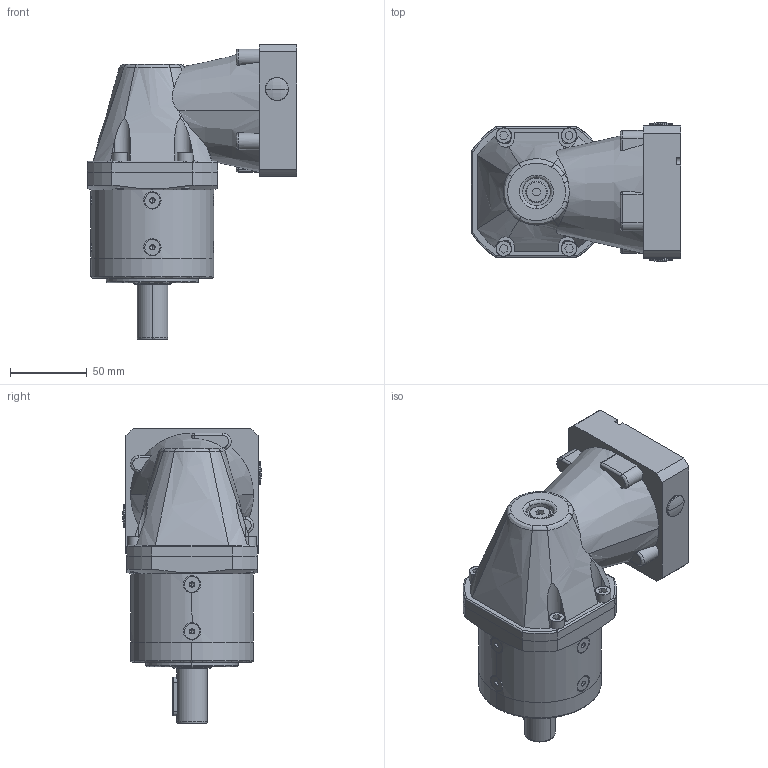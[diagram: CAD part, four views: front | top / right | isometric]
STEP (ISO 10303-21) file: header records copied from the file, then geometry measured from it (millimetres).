
FILE_DESCRIPTION (( 'STEP AP214' ), '1' );
FILE_NAME ('GSLR-080-0_ _-N034_-XX Single Stage.STEP', '2025-08-26T15:10:10', ( '' ), ( '' ), 'SwSTEP 2.0', 'SolidWorks 2020', '' );
FILE_SCHEMA (( 'AUTOMOTIVE_DESIGN' ));
Length unit declared in the file: millimetre
Products named in the file (1): GSLR-080-0_ _-N034_-XX Single Stage
Bounding box: 136.5 x 90.39 x 192 mm (x, y, z)
Volume: 577613.5 mm3; surface area: 213593.4 mm2
Topology: 47 solids, 47 shells, 1610 faces, 4221 edges, 2643 vertices
Faces by surface type: cylinder 490, bspline 461, plane 427, cone 232
Entity records: 69185 total; most frequent: CARTESIAN_POINT 31989, ORIENTED_EDGE 8210, DIRECTION 7012, EDGE_CURVE 4105, AXIS2_PLACEMENT_3D 2914, VERTEX_POINT 2643, EDGE_LOOP 1840, CIRCLE 1764
